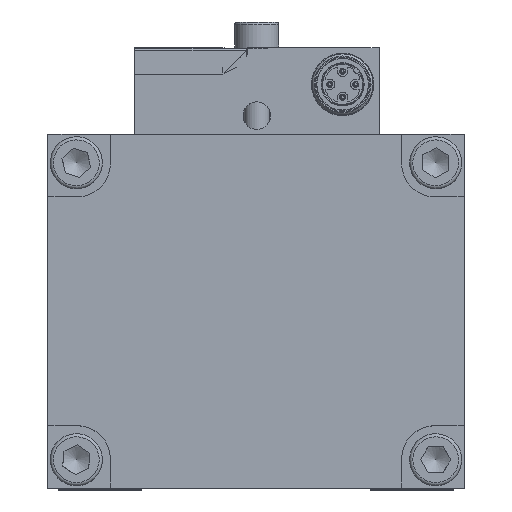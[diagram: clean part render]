
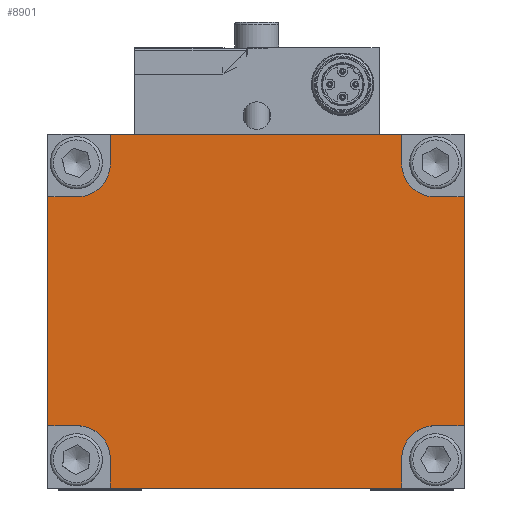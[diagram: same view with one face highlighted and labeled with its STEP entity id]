
A CAD part, top view. The second image highlights one B-rep face of the part: STEP entity #8901.
In plain terms, the highlighted planar face has unit normal (0, 0, 1).
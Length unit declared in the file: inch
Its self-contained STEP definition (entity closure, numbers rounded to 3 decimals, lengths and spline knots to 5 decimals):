
#879=CIRCLE('',#9765,0.25);
#881=CIRCLE('',#9770,0.25);
#883=CIRCLE('',#9776,0.25);
#885=CIRCLE('',#9781,0.25);
#1559=FACE_OUTER_BOUND('',#2107,.T.);
#2107=EDGE_LOOP('',(#7128,#7129,#7130,#7131,#7132,#7133,#7134,#7135,#7136,
#7137,#7138,#7139,#7140,#7141,#7142,#7143));
#2622=LINE('',#14673,#3247);
#2630=LINE('',#14694,#3255);
#2635=LINE('',#14790,#3260);
#2641=LINE('',#14800,#3266);
#2645=LINE('',#14810,#3270);
#2647=LINE('',#14815,#3272);
#2651=LINE('',#14827,#3276);
#2657=LINE('',#14836,#3282);
#2659=LINE('',#14841,#3284);
#2663=LINE('',#14851,#3288);
#2665=LINE('',#14856,#3290);
#2669=LINE('',#14866,#3294);
#3247=VECTOR('',#11545,0.3937);
#3255=VECTOR('',#11559,0.3937);
#3260=VECTOR('',#11584,0.3937);
#3266=VECTOR('',#11592,0.3937);
#3270=VECTOR('',#11604,0.3937);
#3272=VECTOR('',#11608,0.3937);
#3276=VECTOR('',#11620,0.3937);
#3282=VECTOR('',#11628,0.3937);
#3284=VECTOR('',#11632,0.3937);
#3288=VECTOR('',#11644,0.3937);
#3290=VECTOR('',#11648,0.3937);
#3294=VECTOR('',#11660,0.3937);
#3981=VERTEX_POINT('',#14658);
#3988=VERTEX_POINT('',#14671);
#3991=VERTEX_POINT('',#14679);
#3998=VERTEX_POINT('',#14692);
#4008=VERTEX_POINT('',#14787);
#4009=VERTEX_POINT('',#14789);
#4012=VERTEX_POINT('',#14799);
#4014=VERTEX_POINT('',#14805);
#4016=VERTEX_POINT('',#14814);
#4018=VERTEX_POINT('',#14820);
#4020=VERTEX_POINT('',#14826);
#4021=VERTEX_POINT('',#14830);
#4024=VERTEX_POINT('',#14840);
#4026=VERTEX_POINT('',#14846);
#4028=VERTEX_POINT('',#14855);
#4030=VERTEX_POINT('',#14861);
#5047=EDGE_CURVE('',#3988,#3981,#2622,.T.);
#5057=EDGE_CURVE('',#3998,#3991,#2630,.T.);
#5074=EDGE_CURVE('',#4008,#4009,#2635,.T.);
#5080=EDGE_CURVE('',#4012,#4009,#2641,.T.);
#5083=EDGE_CURVE('',#4014,#4012,#879,.T.);
#5086=EDGE_CURVE('',#3998,#4014,#2645,.T.);
#5088=EDGE_CURVE('',#4016,#3991,#2647,.T.);
#5091=EDGE_CURVE('',#4018,#4016,#881,.T.);
#5094=EDGE_CURVE('',#4020,#4018,#2651,.T.);
#5100=EDGE_CURVE('',#4020,#4021,#2657,.T.);
#5102=EDGE_CURVE('',#4024,#4021,#2659,.T.);
#5105=EDGE_CURVE('',#4026,#4024,#883,.T.);
#5108=EDGE_CURVE('',#3988,#4026,#2663,.T.);
#5110=EDGE_CURVE('',#4028,#3981,#2665,.T.);
#5113=EDGE_CURVE('',#4030,#4028,#885,.T.);
#5116=EDGE_CURVE('',#4008,#4030,#2669,.T.);
#7128=ORIENTED_EDGE('',*,*,#5116,.T.);
#7129=ORIENTED_EDGE('',*,*,#5113,.T.);
#7130=ORIENTED_EDGE('',*,*,#5110,.T.);
#7131=ORIENTED_EDGE('',*,*,#5047,.F.);
#7132=ORIENTED_EDGE('',*,*,#5108,.T.);
#7133=ORIENTED_EDGE('',*,*,#5105,.T.);
#7134=ORIENTED_EDGE('',*,*,#5102,.T.);
#7135=ORIENTED_EDGE('',*,*,#5100,.F.);
#7136=ORIENTED_EDGE('',*,*,#5094,.T.);
#7137=ORIENTED_EDGE('',*,*,#5091,.T.);
#7138=ORIENTED_EDGE('',*,*,#5088,.T.);
#7139=ORIENTED_EDGE('',*,*,#5057,.F.);
#7140=ORIENTED_EDGE('',*,*,#5086,.T.);
#7141=ORIENTED_EDGE('',*,*,#5083,.T.);
#7142=ORIENTED_EDGE('',*,*,#5080,.T.);
#7143=ORIENTED_EDGE('',*,*,#5074,.F.);
#8561=PLANE('',#9835);
#8901=ADVANCED_FACE('',(#1559),#8561,.T.);
#9765=AXIS2_PLACEMENT_3D('',#14806,#11598,#11599);
#9770=AXIS2_PLACEMENT_3D('',#14821,#11614,#11615);
#9776=AXIS2_PLACEMENT_3D('',#14847,#11638,#11639);
#9781=AXIS2_PLACEMENT_3D('',#14862,#11654,#11655);
#9835=AXIS2_PLACEMENT_3D('',#14995,#11801,#11802);
#11545=DIRECTION('',(0.,-1.,0.));
#11559=DIRECTION('',(0.,1.,0.));
#11584=DIRECTION('',(-1.,0.,0.));
#11592=DIRECTION('',(0.,-1.,0.));
#11598=DIRECTION('center_axis',(0.,0.,-1.));
#11599=DIRECTION('ref_axis',(1.,0.,0.));
#11604=DIRECTION('',(1.,0.,0.));
#11608=DIRECTION('',(-1.,0.,0.));
#11614=DIRECTION('center_axis',(0.,0.,-1.));
#11615=DIRECTION('ref_axis',(0.,-1.,0.));
#11620=DIRECTION('',(0.,-1.,0.));
#11628=DIRECTION('',(1.,0.,0.));
#11632=DIRECTION('',(0.,1.,0.));
#11638=DIRECTION('center_axis',(0.,0.,-1.));
#11639=DIRECTION('ref_axis',(-1.,0.,0.));
#11644=DIRECTION('',(-1.,0.,0.));
#11648=DIRECTION('',(1.,0.,0.));
#11654=DIRECTION('center_axis',(0.,0.,-1.));
#11655=DIRECTION('ref_axis',(0.,1.,0.));
#11660=DIRECTION('',(0.,1.,0.));
#11801=DIRECTION('center_axis',(0.,0.,1.));
#11802=DIRECTION('ref_axis',(1.,0.,0.));
#14658=CARTESIAN_POINT('',(1.575,-1.10256,0.894));
#14671=CARTESIAN_POINT('',(1.575,0.62956,0.894));
#14673=CARTESIAN_POINT('',(1.575,1.102,0.894));
#14679=CARTESIAN_POINT('',(-1.575,0.62956,0.894));
#14692=CARTESIAN_POINT('',(-1.575,-1.10256,0.894));
#14694=CARTESIAN_POINT('',(-1.575,-1.575,0.894));
#14787=CARTESIAN_POINT('',(1.10256,-1.575,0.894));
#14789=CARTESIAN_POINT('',(-1.10256,-1.575,0.894));
#14790=CARTESIAN_POINT('',(1.575,-1.575,0.894));
#14799=CARTESIAN_POINT('',(-1.10256,-1.35256,0.894));
#14800=CARTESIAN_POINT('',(-1.10256,-0.90575,0.894));
#14805=CARTESIAN_POINT('',(-1.35256,-1.10256,0.894));
#14806=CARTESIAN_POINT('Origin',(-1.35256,-1.35256,0.894));
#14810=CARTESIAN_POINT('',(-0.67628,-1.10256,0.894));
#14814=CARTESIAN_POINT('',(-1.35256,0.62956,0.894));
#14815=CARTESIAN_POINT('',(-0.7875,0.62956,0.894));
#14820=CARTESIAN_POINT('',(-1.10256,0.87956,0.894));
#14821=CARTESIAN_POINT('Origin',(-1.35256,0.87956,0.894));
#14826=CARTESIAN_POINT('',(-1.10256,1.102,0.894));
#14827=CARTESIAN_POINT('',(-1.10256,0.32153,0.894));
#14830=CARTESIAN_POINT('',(1.10256,1.102,0.894));
#14836=CARTESIAN_POINT('',(-1.575,1.102,0.894));
#14840=CARTESIAN_POINT('',(1.10256,0.87956,0.894));
#14841=CARTESIAN_POINT('',(1.10256,0.43275,0.894));
#14846=CARTESIAN_POINT('',(1.35256,0.62956,0.894));
#14847=CARTESIAN_POINT('Origin',(1.35256,0.87956,0.894));
#14851=CARTESIAN_POINT('',(0.67628,0.62956,0.894));
#14855=CARTESIAN_POINT('',(1.35256,-1.10256,0.894));
#14856=CARTESIAN_POINT('',(0.7875,-1.10256,0.894));
#14861=CARTESIAN_POINT('',(1.10256,-1.35256,0.894));
#14862=CARTESIAN_POINT('Origin',(1.35256,-1.35256,0.894));
#14866=CARTESIAN_POINT('',(1.10256,-0.79453,0.894));
#14995=CARTESIAN_POINT('Origin',(0.,-0.2365,0.894));
